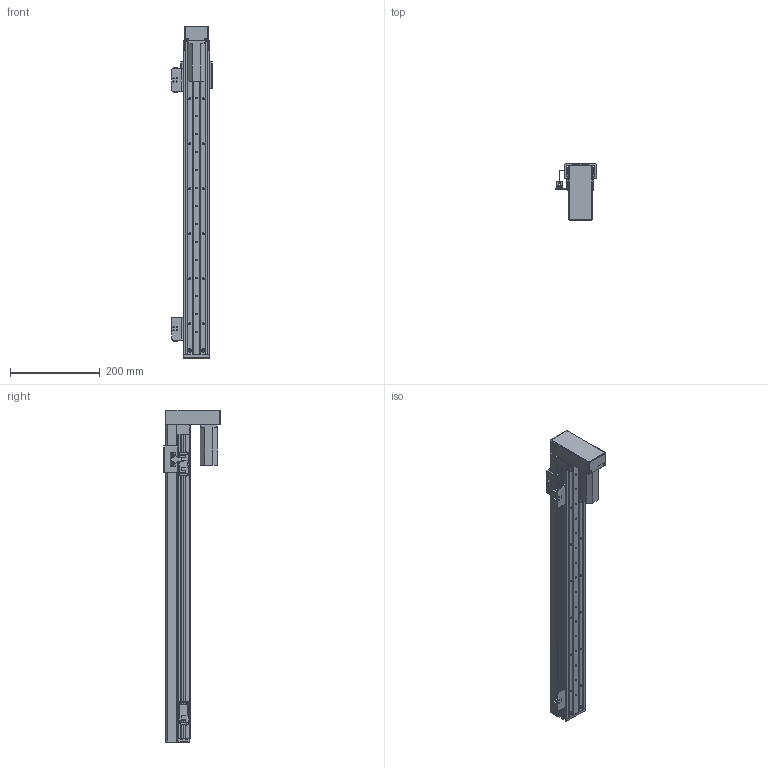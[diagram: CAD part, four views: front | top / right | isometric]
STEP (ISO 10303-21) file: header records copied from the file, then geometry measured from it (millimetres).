
FILE_DESCRIPTION (( 'STEP AP203' ), '1' );
FILE_NAME ('RY60FB-L1210-300-BK.SLDASM_550.step', '2021-02-23T00:55:29', ( '盈信电脑' ), ( '东莞市道滘镇水果街19号' ), 'SwSTEP 2.0', 'SolidWorks 2012', '' );
FILE_SCHEMA (( 'CONFIG_CONTROL_DESIGN' ));
Length unit declared in the file: millimetre
Products named in the file (15): RY60FB-674嫖萇耀輸; 覜茼ん674; RY60FB转折电机端支撑座; RY60FB-感应器674光电安装座; RY60FB綴裔啣; RY80俋离覜茼え; 滅袉蝶18-10; 侂狟100W; RY60FB-蛌殏奻裔-300-BK_550; RY60FB-臏賑輸; RY60FB-蛌殏菁釱-300-BK_550; RY60FB-蛌殏萇儂欶; RY60FB-L1210-300-BK.SLDASM_550; RY60FB-狟殏萇儂假蚾啣
Assembly tree (20 placements, depth 3):
  RY60FB-L1210-300-BK.SLDASM_550
    RY60FB-蛌殏菁釱-300-BK_550
    RY60FB-臏賑輸
    滅袉蝶18-10  x4
    RY60FB-蛌殏奻裔-300-BK_550
    侂狟100W
    RY60FB綴裔啣
    RY60FB转折电机端支撑座
    RY80俋离覜茼え
    RY60FB-674嫖萇耀輸
      RY60FB-感应器674光电安装座
      覜茼ん674  x2
    RY60FB-674嫖萇耀輸
      RY60FB-感应器674光电安装座
      覜茼ん674
    RY60FB-狟殏萇儂假蚾啣
    RY60FB-蛌殏萇儂欶
Bounding box: 90 x 125.45 x 738 mm (x, y, z)
Volume: 960150.9 mm3; surface area: 533357.9 mm2
Topology: 18 solids, 18 shells, 1101 faces, 3004 edges, 1912 vertices
Faces by surface type: plane 529, cylinder 467, cone 97, bspline 8
Entity records: 31721 total; most frequent: CARTESIAN_POINT 6165, DIRECTION 5028, ORIENTED_EDGE 4904, EDGE_CURVE 2452, AXIS2_PLACEMENT_3D 1763, VERTEX_POINT 1588, VECTOR 1502, LINE 1502
